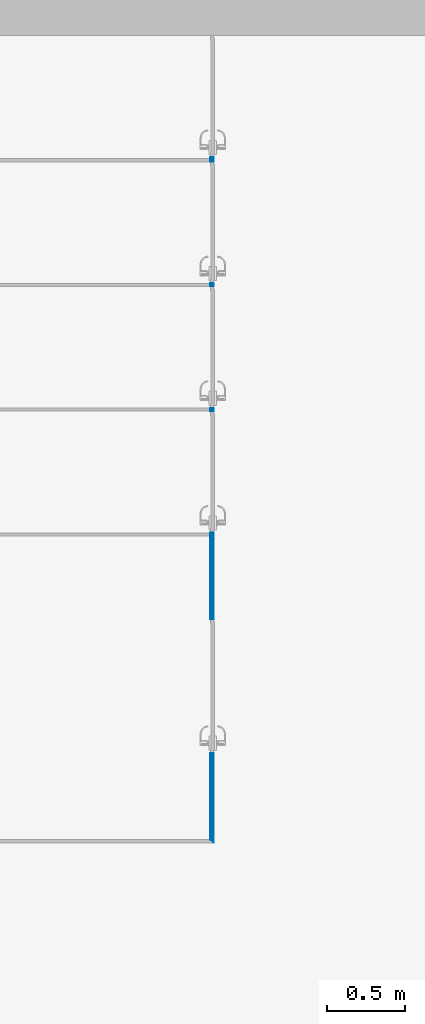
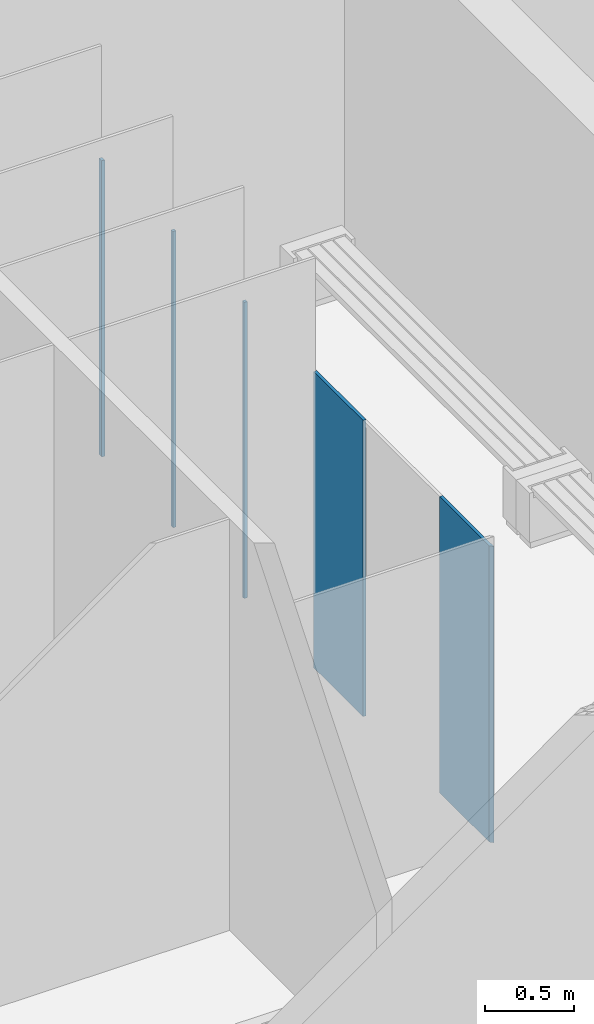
# One storey, part 27 of 45: 1 wall, 5 openings.
"""IFC2X3 building model written with IfcOpenShell, lengths in metres."""

from ifc_helpers import new_model, entity, si_unit, converted_unit, money_unit, direction, frame, origin_with_axes, place, context, subcontext, project, spatial, polyline, outline, extrude, material, layer, layer_set, layer_usage, type_object, element, save


model = new_model("IFC2X3")

# Units and contexts
model_context = context("Model", 3, precision=1e-05, world=origin_with_axes(), true_north=direction((0.0, 1.0)))
body_context = subcontext(model_context, "Body", "Model", "MODEL_VIEW")
ifc_project = project(units=[si_unit("LENGTHUNIT", "METRE"), si_unit("AREAUNIT", "SQUARE_METRE"), si_unit("VOLUMEUNIT", "CUBIC_METRE"), converted_unit("PLANEANGLEUNIT", "DEGREE", entity("IfcPlaneAngleMeasure", 0.0174532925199), si_unit("PLANEANGLEUNIT", "RADIAN"), dimensions=[0, 0, 0, 0, 0, 0, 0]), si_unit("SOLIDANGLEUNIT", "STERADIAN"), money_unit("EUR"), converted_unit("TIMEUNIT", "Year", entity("IfcTimeMeasure", 31556926.0), si_unit("TIMEUNIT", "SECOND"), dimensions=[0, 0, 0, 0, 0, 0, 0]), si_unit("MASSUNIT", "GRAM"), si_unit("THERMODYNAMICTEMPERATUREUNIT", "DEGREE_CELSIUS"), si_unit("LUMINOUSINTENSITYUNIT", "LUMEN")], contexts=[model_context])

# Site, building, storey
site_placement = place(None, origin_with_axes())
site = spatial("IfcSite", under=ifc_project, at=site_placement, Name="Site", CompositionType="ELEMENT")
building_placement = place(site_placement, origin_with_axes())
building = spatial("IfcBuilding", under=site, at=building_placement, Name="Bâtiment", CompositionType="ELEMENT")
storey_placement = place(building_placement, origin_with_axes())
storey = spatial("IfcBuildingStorey", under=building, at=storey_placement, Name="NIVEAU BAS GYMNASE", CompositionType="ELEMENT", Elevation=0.0)

# Wall, openings
ifc_material = material(Name="Hachure solide 3821565075")
ifc_layer = layer(ifc_material, 0.02, ventilated="UNKNOWN")
ifc_layer_set = layer_set([ifc_layer], Name="Hachure solide 3821565075 0.02")
ifc_layer_usage = layer_usage(ifc_layer_set, "AXIS2", "POSITIVE", -0.02)
wall_type = type_object("IfcWallType", Name="Hachure solide 3821565075 20", PredefinedType="NOTDEFINED")
wall_placement = place(storey_placement, frame((61.0632132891, 16.338956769, 0.0), z_axis=(0.0, 0.0, 1.0), x_axis=(0.0, 1.0, 0.0)))
wall = element("IfcWallStandardCase", 1, at=wall_placement, inside=storey, type_object=wall_type, material=ifc_layer_usage, Name="Mur-022", context=body_context, shape_type="SweptSolid", body=[
    extrude(outline(polyline([(-0.02, -0.02), (5.15985894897, -0.02), (5.15985894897, 0.0), (0.0, 0.0), (-0.02, -0.02)])), origin_with_axes(), (0.0, 0.0, 1.0), 2.03),
])
opening_1_placement = place(wall_placement, frame((0.986187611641, 0.0, -0.02), z_axis=(0.0, 0.0, 1.0), x_axis=(1.0, 0.0, 0.0)))
element("IfcOpeningElement", 2, at=opening_1_placement, cuts=wall, Name="Por-019", context=body_context, shape_type="SweptSolid", body=[
    extrude(outline(polyline([(0.43, 0.0), (-0.43, 0.0), (-0.43, -2.05), (0.43, -2.05), (0.43, 0.0)])), frame((0.0, 0.02, 0.0), z_axis=(0.0, -1.0, 0.0), x_axis=(-1.0, 0.0, 0.0)), (0.0, 0.0, 1.0), 0.04),
])
opening_2_placement = place(wall_placement, frame((4.76985894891, 0.0, -0.02), z_axis=(0.0, 0.0, 1.0), x_axis=(1.0, 0.0, 0.0)))
element("IfcOpeningElement", 3, at=opening_2_placement, cuts=wall, Name="Por-023", context=body_context, shape_type="SweptSolid", body=[
    extrude(outline(polyline([(0.39, 0.0), (-0.39, 0.0), (-0.39, -2.05), (0.39, -2.05), (0.39, 0.0)])), frame((0.0, 0.02, 0.0), z_axis=(0.0, -1.0, 0.0), x_axis=(-1.0, 0.0, 0.0)), (0.0, 0.0, 1.0), 0.04),
])
opening_3_placement = place(wall_placement, frame((3.95985894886, 0.0, -0.02), z_axis=(0.0, 0.0, 1.0), x_axis=(1.0, 0.0, 0.0)))
element("IfcOpeningElement", 4, at=opening_3_placement, cuts=wall, Name="Por-024", context=body_context, shape_type="SweptSolid", body=[
    extrude(outline(polyline([(0.39, 0.0), (-0.39, 0.0), (-0.39, -2.05), (0.39, -2.05), (0.39, 0.0)])), frame((0.0, 0.02, 0.0), z_axis=(0.0, -1.0, 0.0), x_axis=(-1.0, 0.0, 0.0)), (0.0, 0.0, 1.0), 0.04),
])
opening_4_placement = place(wall_placement, frame((3.15985894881, 0.0, -0.02), z_axis=(0.0, 0.0, 1.0), x_axis=(1.0, 0.0, 0.0)))
element("IfcOpeningElement", 5, at=opening_4_placement, cuts=wall, Name="Por-025", context=body_context, shape_type="SweptSolid", body=[
    extrude(outline(polyline([(0.39, 0.0), (-0.39, 0.0), (-0.39, -2.05), (0.39, -2.05), (0.39, 0.0)])), frame((0.0, 0.02, 0.0), z_axis=(0.0, -1.0, 0.0), x_axis=(-1.0, 0.0, 0.0)), (0.0, 0.0, 1.0), 0.04),
])
opening_5_placement = place(wall_placement, frame((2.35985894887, 0.0, -0.02), z_axis=(0.0, 0.0, 1.0), x_axis=(1.0, 0.0, 0.0)))
element("IfcOpeningElement", 6, at=opening_5_placement, cuts=wall, Name="Por-026", context=body_context, shape_type="SweptSolid", body=[
    extrude(outline(polyline([(0.39, 0.0), (-0.39, 0.0), (-0.39, -2.05), (0.39, -2.05), (0.39, 0.0)])), frame((0.0, 0.02, 0.0), z_axis=(0.0, -1.0, 0.0), x_axis=(-1.0, 0.0, 0.0)), (0.0, 0.0, 1.0), 0.04),
])

save(model, "model.ifc")
